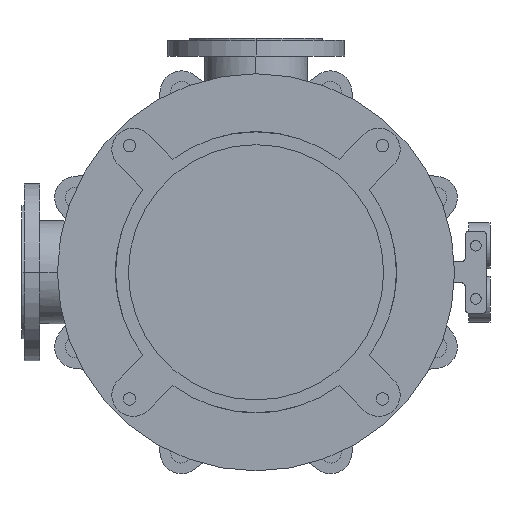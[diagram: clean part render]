
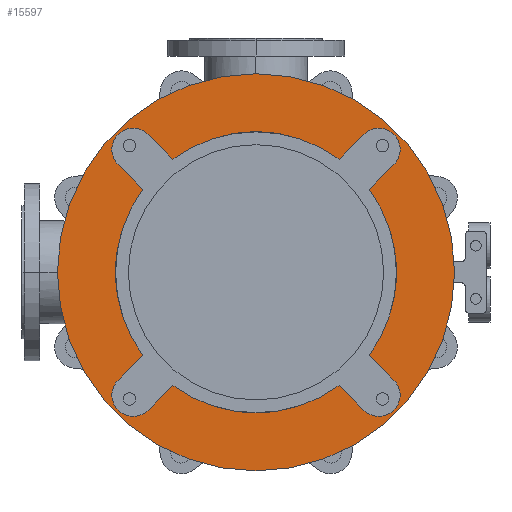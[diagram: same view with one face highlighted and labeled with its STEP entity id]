
A CAD part, front view. The second image highlights one B-rep face of the part: STEP entity #15597.
In plain terms, the highlighted planar face has unit normal (0, -1, 0).
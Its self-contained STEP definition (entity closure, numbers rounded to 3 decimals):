
#4387=CARTESIAN_POINT('',(0.,-25.,0.));
#4388=DIRECTION('',(0.,1.,0.));
#4389=DIRECTION('',(0.592,0.,-0.806));
#4390=AXIS2_PLACEMENT_3D('',#4387,#4388,#4389);
#4405=CARTESIAN_POINT('',(0.,-25.,0.));
#4406=DIRECTION('',(0.,1.,0.));
#4407=DIRECTION('',(0.806,0.,0.592));
#4408=AXIS2_PLACEMENT_3D('',#4405,#4406,#4407);
#4432=CARTESIAN_POINT('',(0.,-25.,0.));
#4433=DIRECTION('',(0.,1.,0.));
#4434=DIRECTION('',(-0.806,0.,-0.592));
#4435=AXIS2_PLACEMENT_3D('',#4432,#4433,#4434);
#4441=CARTESIAN_POINT('',(0.,-25.,0.));
#4442=DIRECTION('',(0.,1.,0.));
#4443=DIRECTION('',(-0.592,0.,0.806));
#4444=AXIS2_PLACEMENT_3D('',#4441,#4442,#4443);
#4619=CARTESIAN_POINT('',(0.,-25.,0.));
#4620=DIRECTION('',(0.,-1.,0.));
#4621=DIRECTION('',(-1.,0.,0.));
#4622=AXIS2_PLACEMENT_3D('',#4619,#4620,#4621);
#4624=CARTESIAN_POINT('',(0.,-25.,0.));
#4625=DIRECTION('',(0.,1.,0.));
#4626=DIRECTION('',(-1.,0.,0.));
#4627=AXIS2_PLACEMENT_3D('',#4624,#4625,#4626);
#4629=CARTESIAN_POINT('',(-173.241,-25.,173.241));
#4630=DIRECTION('',(0.,-1.,0.));
#4631=DIRECTION('',(0.707,0.,0.707));
#4632=AXIS2_PLACEMENT_3D('',#4629,#4630,#4631);
#4634=DIRECTION('',(0.707,0.,-0.707));
#4635=VECTOR('',#4634,49.286);
#4636=CARTESIAN_POINT('',(-194.454,-25.,152.028));
#4637=LINE('',#4636,#4635);
#4638=DIRECTION('',(-0.707,0.,-0.707));
#4639=VECTOR('',#4638,49.286);
#4640=CARTESIAN_POINT('',(-159.604,-25.,-117.178));
#4641=LINE('',#4640,#4639);
#4642=CARTESIAN_POINT('',(-173.241,-25.,-173.241));
#4643=DIRECTION('',(0.,-1.,0.));
#4644=DIRECTION('',(-0.707,0.,0.707));
#4645=AXIS2_PLACEMENT_3D('',#4642,#4643,#4644);
#4647=DIRECTION('',(0.707,0.,0.707));
#4648=VECTOR('',#4647,49.286);
#4649=CARTESIAN_POINT('',(-152.028,-25.,-194.454));
#4650=LINE('',#4649,#4648);
#4651=DIRECTION('',(0.707,0.,-0.707));
#4652=VECTOR('',#4651,49.286);
#4653=CARTESIAN_POINT('',(117.178,-25.,-159.604));
#4654=LINE('',#4653,#4652);
#4655=CARTESIAN_POINT('',(173.241,-25.,-173.241));
#4656=DIRECTION('',(0.,-1.,0.));
#4657=DIRECTION('',(-0.707,0.,-0.707));
#4658=AXIS2_PLACEMENT_3D('',#4655,#4656,#4657);
#4660=DIRECTION('',(-0.707,0.,0.707));
#4661=VECTOR('',#4660,49.286);
#4662=CARTESIAN_POINT('',(194.454,-25.,-152.028));
#4663=LINE('',#4662,#4661);
#4664=DIRECTION('',(0.707,0.,0.707));
#4665=VECTOR('',#4664,49.286);
#4666=CARTESIAN_POINT('',(159.604,-25.,117.178));
#4667=LINE('',#4666,#4665);
#4668=CARTESIAN_POINT('',(173.241,-25.,173.241));
#4669=DIRECTION('',(0.,-1.,0.));
#4670=DIRECTION('',(0.707,0.,-0.707));
#4671=AXIS2_PLACEMENT_3D('',#4668,#4669,#4670);
#4673=DIRECTION('',(-0.707,0.,-0.707));
#4674=VECTOR('',#4673,49.286);
#4675=CARTESIAN_POINT('',(152.028,-25.,194.454));
#4676=LINE('',#4675,#4674);
#4677=DIRECTION('',(-0.707,0.,0.707));
#4678=VECTOR('',#4677,49.286);
#4679=CARTESIAN_POINT('',(-117.178,-25.,159.604));
#4680=LINE('',#4679,#4678);
#8370=CARTESIAN_POINT('',(-280.,-25.,0.));
#8371=CARTESIAN_POINT('',(280.,-25.,0.));
#8372=VERTEX_POINT('',#8370);
#8373=VERTEX_POINT('',#8371);
#8394=CARTESIAN_POINT('',(-194.454,-25.,-152.028));
#8395=CARTESIAN_POINT('',(-152.028,-25.,-194.454));
#8396=VERTEX_POINT('',#8394);
#8397=VERTEX_POINT('',#8395);
#8398=CARTESIAN_POINT('',(-117.178,-25.,-159.604));
#8399=VERTEX_POINT('',#8398);
#8400=CARTESIAN_POINT('',(-159.604,-25.,-117.178));
#8401=VERTEX_POINT('',#8400);
#8410=CARTESIAN_POINT('',(152.028,-25.,-194.454));
#8411=CARTESIAN_POINT('',(194.454,-25.,-152.028));
#8412=VERTEX_POINT('',#8410);
#8413=VERTEX_POINT('',#8411);
#8414=CARTESIAN_POINT('',(159.604,-25.,-117.178));
#8415=VERTEX_POINT('',#8414);
#8416=CARTESIAN_POINT('',(117.178,-25.,-159.604));
#8417=VERTEX_POINT('',#8416);
#8426=CARTESIAN_POINT('',(194.454,-25.,152.028));
#8427=CARTESIAN_POINT('',(152.028,-25.,194.454));
#8428=VERTEX_POINT('',#8426);
#8429=VERTEX_POINT('',#8427);
#8430=CARTESIAN_POINT('',(117.178,-25.,159.604));
#8431=VERTEX_POINT('',#8430);
#8432=CARTESIAN_POINT('',(159.604,-25.,117.178));
#8433=VERTEX_POINT('',#8432);
#8442=CARTESIAN_POINT('',(-152.028,-25.,194.454));
#8443=CARTESIAN_POINT('',(-194.454,-25.,152.028));
#8444=VERTEX_POINT('',#8442);
#8445=VERTEX_POINT('',#8443);
#8446=CARTESIAN_POINT('',(-159.604,-25.,117.178));
#8447=VERTEX_POINT('',#8446);
#8448=CARTESIAN_POINT('',(-117.178,-25.,159.604));
#8449=VERTEX_POINT('',#8448);
#15557=CARTESIAN_POINT('',(0.,-25.,0.));
#15558=DIRECTION('',(0.,-1.,0.));
#15559=DIRECTION('',(-1.,0.,0.));
#15560=AXIS2_PLACEMENT_3D('',#15557,#15558,#15559);
#15561=PLANE('',#15560);
#15563=ORIENTED_EDGE('',*,*,#15562,.F.);
#15565=ORIENTED_EDGE('',*,*,#15564,.T.);
#15566=EDGE_LOOP('',(#15563,#15565));
#15567=FACE_OUTER_BOUND('',#15566,.F.);
#15569=ORIENTED_EDGE('',*,*,#15568,.T.);
#15571=ORIENTED_EDGE('',*,*,#15570,.T.);
#15572=ORIENTED_EDGE('',*,*,#15510,.F.);
#15574=ORIENTED_EDGE('',*,*,#15573,.T.);
#15576=ORIENTED_EDGE('',*,*,#15575,.T.);
#15578=ORIENTED_EDGE('',*,*,#15577,.T.);
#15579=ORIENTED_EDGE('',*,*,#15463,.F.);
#15580=ORIENTED_EDGE('',*,*,#15547,.T.);
#15582=ORIENTED_EDGE('',*,*,#15581,.T.);
#15584=ORIENTED_EDGE('',*,*,#15583,.T.);
#15585=ORIENTED_EDGE('',*,*,#15484,.F.);
#15587=ORIENTED_EDGE('',*,*,#15586,.T.);
#15589=ORIENTED_EDGE('',*,*,#15588,.T.);
#15591=ORIENTED_EDGE('',*,*,#15590,.T.);
#15592=ORIENTED_EDGE('',*,*,#15528,.F.);
#15594=ORIENTED_EDGE('',*,*,#15593,.T.);
#15595=EDGE_LOOP('',(#15569,#15571,#15572,#15574,#15576,#15578,#15579,#15580,
#15582,#15584,#15585,#15587,#15589,#15591,#15592,#15594));
#15596=FACE_BOUND('',#15595,.F.);
#15597=ADVANCED_FACE('',(#15567,#15596),#15561,.T.);
#4391=CIRCLE('',#4390,198.);
#4409=CIRCLE('',#4408,198.);
#4436=CIRCLE('',#4435,198.);
#4445=CIRCLE('',#4444,198.);
#4623=CIRCLE('',#4622,280.);
#4628=CIRCLE('',#4627,280.);
#4633=CIRCLE('',#4632,30.);
#4646=CIRCLE('',#4645,30.);
#4659=CIRCLE('',#4658,30.);
#4672=CIRCLE('',#4671,30.);
#15463=EDGE_CURVE('',#8417,#8399,#4391,.T.);
#15484=EDGE_CURVE('',#8433,#8415,#4409,.T.);
#15510=EDGE_CURVE('',#8401,#8447,#4436,.T.);
#15528=EDGE_CURVE('',#8449,#8431,#4445,.T.);
#15547=EDGE_CURVE('',#8417,#8412,#4654,.T.);
#15562=EDGE_CURVE('',#8372,#8373,#4623,.T.);
#15564=EDGE_CURVE('',#8372,#8373,#4628,.T.);
#15568=EDGE_CURVE('',#8444,#8445,#4633,.T.);
#15570=EDGE_CURVE('',#8445,#8447,#4637,.T.);
#15573=EDGE_CURVE('',#8401,#8396,#4641,.T.);
#15575=EDGE_CURVE('',#8396,#8397,#4646,.T.);
#15577=EDGE_CURVE('',#8397,#8399,#4650,.T.);
#15581=EDGE_CURVE('',#8412,#8413,#4659,.T.);
#15583=EDGE_CURVE('',#8413,#8415,#4663,.T.);
#15586=EDGE_CURVE('',#8433,#8428,#4667,.T.);
#15588=EDGE_CURVE('',#8428,#8429,#4672,.T.);
#15590=EDGE_CURVE('',#8429,#8431,#4676,.T.);
#15593=EDGE_CURVE('',#8449,#8444,#4680,.T.);
